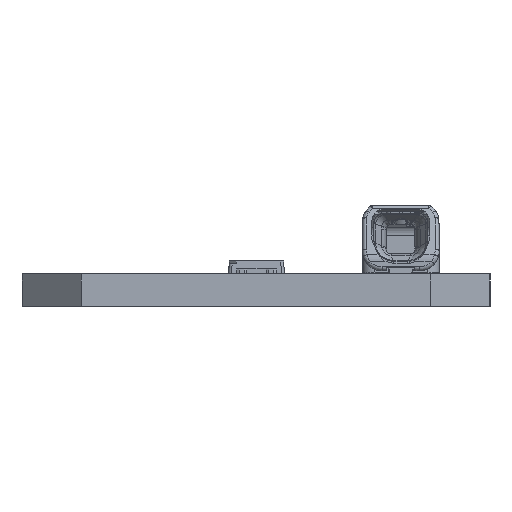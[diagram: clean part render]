
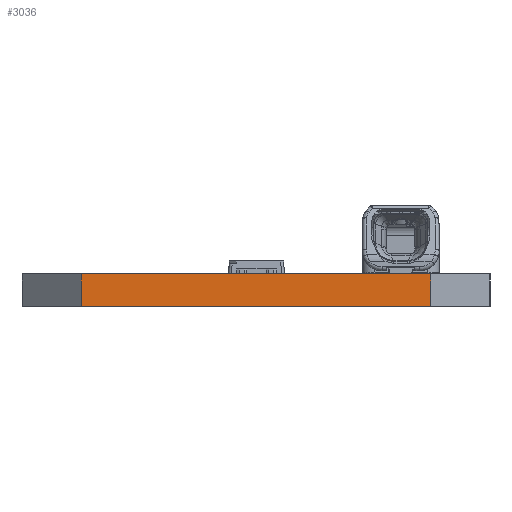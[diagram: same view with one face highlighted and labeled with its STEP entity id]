
A CAD part, left-side view. The second image highlights one B-rep face of the part: STEP entity #3036.
In plain terms, the highlighted planar face has unit normal (-1, 0, 0).
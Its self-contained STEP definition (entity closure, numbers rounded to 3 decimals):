
#439=DIRECTION('',(0.,1.,0.));
#440=VECTOR('',#439,17.6);
#441=CARTESIAN_POINT('',(-34.5,-8.8,0.));
#442=LINE('',#441,#440);
#521=DIRECTION('',(0.,0.,1.));
#522=VECTOR('',#521,1.65);
#523=CARTESIAN_POINT('',(-34.5,8.8,0.));
#524=LINE('',#523,#522);
#525=DIRECTION('',(0.,0.,1.));
#526=VECTOR('',#525,1.65);
#527=CARTESIAN_POINT('',(-34.5,-8.8,0.));
#528=LINE('',#527,#526);
#529=DIRECTION('',(0.,1.,0.));
#530=VECTOR('',#529,17.6);
#531=CARTESIAN_POINT('',(-34.5,-8.8,1.65));
#532=LINE('',#531,#530);
#2103=CARTESIAN_POINT('',(-34.5,-8.8,0.));
#2105=VERTEX_POINT('',#2103);
#2136=CARTESIAN_POINT('',(-34.5,8.8,0.));
#2138=VERTEX_POINT('',#2136);
#2176=CARTESIAN_POINT('',(-34.5,8.8,1.65));
#2177=VERTEX_POINT('',#2176);
#2196=CARTESIAN_POINT('',(-34.5,-8.8,1.65));
#2197=VERTEX_POINT('',#2196);
#3024=CARTESIAN_POINT('',(-34.5,8.8,1.65));
#3025=DIRECTION('',(-1.,0.,0.));
#3026=DIRECTION('',(0.,0.,1.));
#3027=AXIS2_PLACEMENT_3D('',#3024,#3025,#3026);
#3028=PLANE('',#3027);
#3030=ORIENTED_EDGE('',*,*,#3029,.F.);
#3031=ORIENTED_EDGE('',*,*,#2910,.T.);
#3032=ORIENTED_EDGE('',*,*,#3016,.T.);
#3033=ORIENTED_EDGE('',*,*,#2702,.F.);
#3034=EDGE_LOOP('',(#3030,#3031,#3032,#3033));
#3035=FACE_OUTER_BOUND('',#3034,.F.);
#3036=ADVANCED_FACE('',(#3035),#3028,.T.);
#2702=EDGE_CURVE('',#2197,#2177,#532,.T.);
#2910=EDGE_CURVE('',#2105,#2138,#442,.T.);
#3016=EDGE_CURVE('',#2138,#2177,#524,.T.);
#3029=EDGE_CURVE('',#2105,#2197,#528,.T.);
